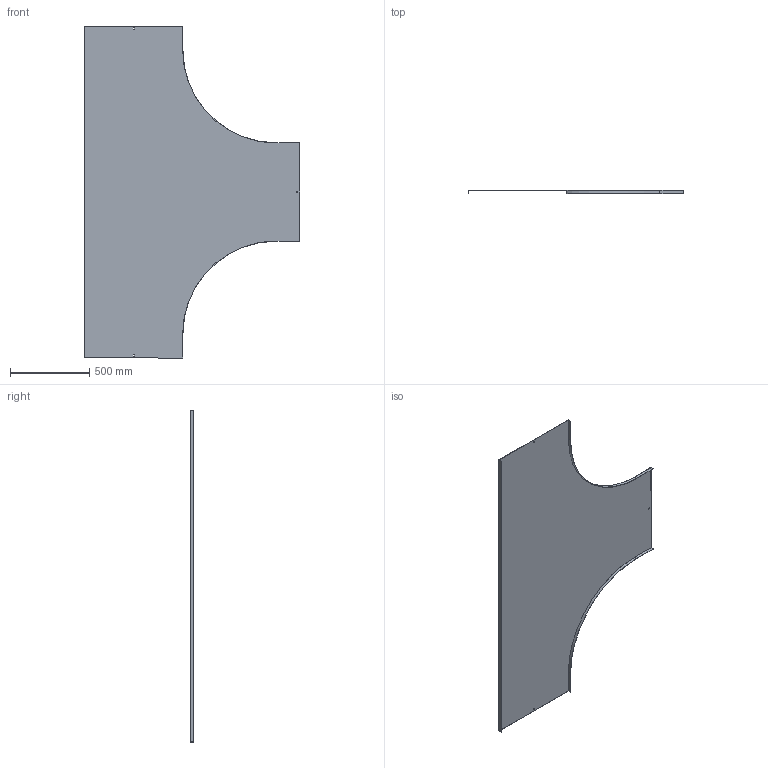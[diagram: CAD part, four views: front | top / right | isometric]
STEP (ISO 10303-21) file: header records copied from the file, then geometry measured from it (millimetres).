
FILE_DESCRIPTION (( 'STEP AP214' ), '1' );
FILE_NAME ('15N6P600.step', '2025-02-21T13:56:37', ( '' ), ( '' ), 'SwSTEP 2.0', 'SolidWorks 2023', '' );
FILE_SCHEMA (( 'AUTOMOTIVE_DESIGN' ));
Length unit declared in the file: millimetre
Products named in the file (1): 15N6P600
Bounding box: 1361.5 x 20 x 2100 mm (x, y, z)
Volume: 3001581 mm3; surface area: 4012040.7 mm2
Topology: 1 solids, 1 shells, 34 faces, 96 edges, 64 vertices
Faces by surface type: plane 30, cylinder 4
Entity records: 1123 total; most frequent: CARTESIAN_POINT 195, ORIENTED_EDGE 192, DIRECTION 174, EDGE_CURVE 96, LINE 88, VECTOR 88, VERTEX_POINT 64, AXIS2_PLACEMENT_3D 43
